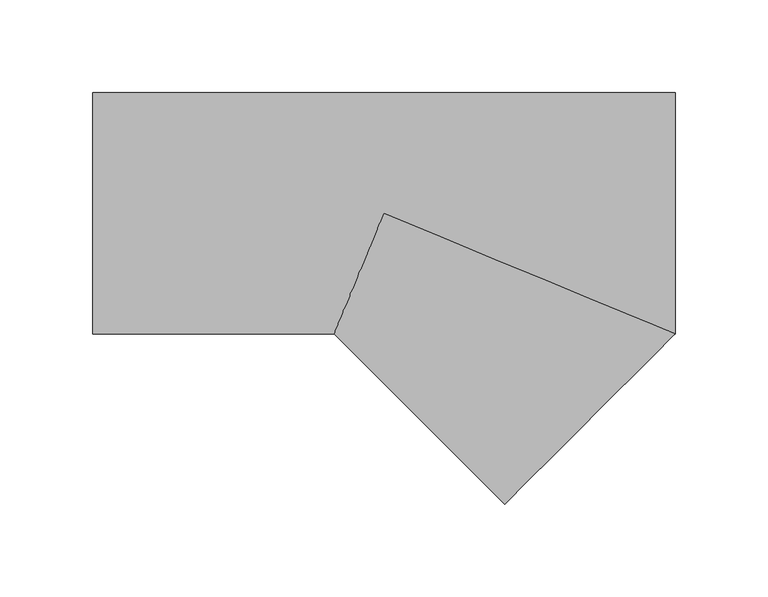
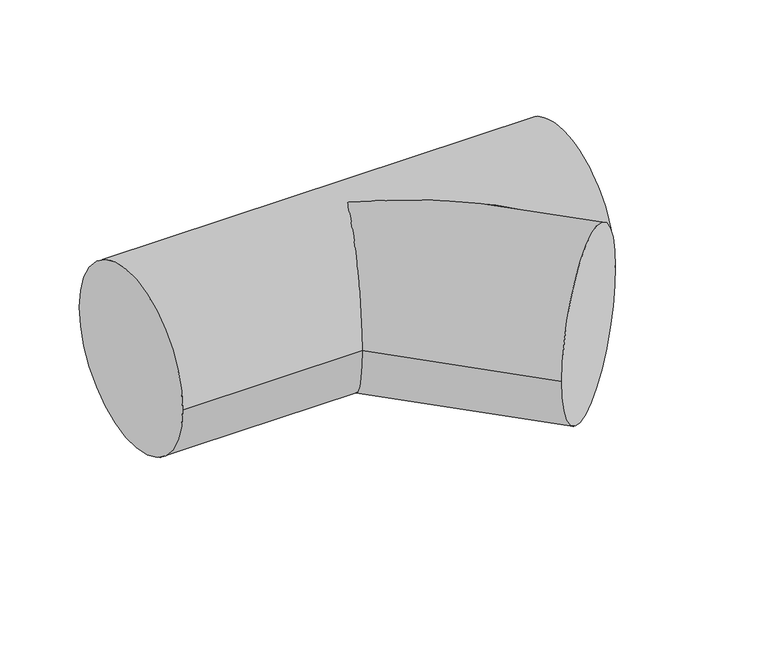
"""IFC4 building model written with IfcOpenShell, lengths in millimetres: pipe fitting geometry, M_Te - Genérica : Estándar."""

from ifc_helpers import new_model, si_unit, frame, origin, place, context, project, spatial, circle_curve, ellipse_curve, source, transform, mapped, element, save
from ifc_brep_helpers import plane_surface, cylinder_surface, advanced_brep


def pipe_fitting_b5a7026e(model_context):
    return source(origin(), model_context, "Body", "AdvancedBrep", [
        advanced_brep(
        [(-157.1335519, -65.0875, 0.0), (-157.1335519, 65.0875, 0.0), (157.1335519, -65.0875, 0.0), (157.1335519, 65.0875, 0.0), (-26.9603952, -65.0875, 0.0), (0.0, 0.0, 65.0875), (0.0, 0.0, -65.0875), (65.085275, -157.1344735, 0.0)],
        [
            (0, 1, circle_curve(frame((-157.1335519, 0.0, 0.0), z_axis=(-1.0, 0.0, 0.0), x_axis=(0.0, 1.0, 0.0)), 65.0875)),
            (1, 0, circle_curve(frame((-157.1335519, 0.0, 0.0), z_axis=(-1.0, 0.0, 0.0), x_axis=(0.0, 1.0, 0.0)), 65.0875)),
            (2, 3, circle_curve(frame((157.1335519, 0.0, 0.0), z_axis=(1.0, 0.0, 0.0), x_axis=(0.0, 1.0, 0.0)), 65.0875)),
            (3, 2, circle_curve(frame((157.1335519, 0.0, 0.0), z_axis=(1.0, 0.0, 0.0), x_axis=(0.0, 1.0, 0.0)), 65.0875)),
            (0, 4),
            (4, 5, ellipse_curve(frame((0.0, 0.0, 0.0), z_axis=(-0.923878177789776, 0.38268670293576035, 0.0), x_axis=(-0.3826867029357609, -0.9238781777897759, 0.0)), 70.4503056, 65.0875)),
            (5, 2, ellipse_curve(frame((0.0, 0.0, 0.0), z_axis=(0.38268670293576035, 0.9238781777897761, 0.0), x_axis=(-0.923878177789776, 0.38268670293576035, 0.0)), 170.0803804, 65.0875)),
            (3, 1),
            (2, 6, ellipse_curve(frame((0.0, 0.0, 0.0), z_axis=(0.38268670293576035, 0.9238781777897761, 0.0), x_axis=(-0.923878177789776, 0.38268670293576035, 0.0)), 170.0803804, 65.0875)),
            (6, 4, ellipse_curve(frame((0.0, 0.0, 0.0), z_axis=(-0.923878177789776, 0.38268670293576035, 0.0), x_axis=(-0.3826867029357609, -0.9238781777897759, 0.0)), 70.4503056, 65.0875)),
            (7, 2, circle_curve(frame((111.1094134, -111.1109868, 0.0), z_axis=(0.7071017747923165, -0.707111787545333, 0.0), x_axis=(0.707111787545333, 0.7071017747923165, 0.0)), 65.0875)),
            (2, 7, circle_curve(frame((111.1094134, -111.1109868, 0.0), z_axis=(0.7071017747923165, -0.707111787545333, 0.0), x_axis=(0.707111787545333, 0.7071017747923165, 0.0)), 65.0875)),
            (4, 7),
        ],
        [
            plane_surface(frame((-157.1335519, 0.0, 0.0), z_axis=(-1.0, 0.0, 0.0), x_axis=(0.0, 0.0, 1.0))),
            plane_surface(frame((157.1335519, 0.0, 0.0), z_axis=(1.0, 0.0, 0.0), x_axis=(0.0, 0.0, 1.0))),
            cylinder_surface(frame((-157.1335519, 0.0, 0.0), z_axis=(-1.0, 0.0, 0.0), x_axis=(0.0, 1.0, 0.0)), 65.0875),
            plane_surface(frame((111.1094134, -111.1109868, 0.0), z_axis=(0.7071017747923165, -0.707111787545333, 0.0), x_axis=(0.0, 0.0, 1.0))),
            cylinder_surface(frame((0.0, 0.0, 0.0), z_axis=(-0.7071017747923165, 0.707111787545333, 0.0), x_axis=(0.707111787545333, 0.7071017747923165, 0.0)), 65.0875),
        ],
        [
            (0, [[1, 2]]),
            (1, [[3, 4]]),
            (2, [[-1, 5, 6, 7, -4, 8]]),
            (2, [[-2, -8, -3, 9, 10, -5]]),
            (3, [[11, 12]]),
            (4, [[-12, -7, -6, 13]]),
            (4, [[-11, -13, -10, -9]]),
        ],
    ),
    ])


if __name__ == "__main__":
    model = new_model("IFC4")
    model_context = context("Model", 3, world=origin())
    ifc_project = project(units=[si_unit("LENGTHUNIT", "METRE", prefix="MILLI")], contexts=[model_context])
    site = spatial("IfcSite", under=ifc_project)
    building = spatial("IfcBuilding", under=site)
    placement = place(None, origin())
    pipe_fitting_shape = pipe_fitting_b5a7026e(model_context)
    element("IfcPipeFitting", 1, ObjectType="M_Te - Genérica : Estándar", at=placement, inside=building, context=model_context, shape_type="MappedRepresentation", body=[
        mapped(pipe_fitting_shape, transform((0.0, 0.0, 0.0), x_axis=(1.0, 0.0, 0.0), y_axis=(0.0, 1.0, 0.0), z_axis=(0.0, 0.0, 1.0))),
    ])
    save(model, "model.ifc")
